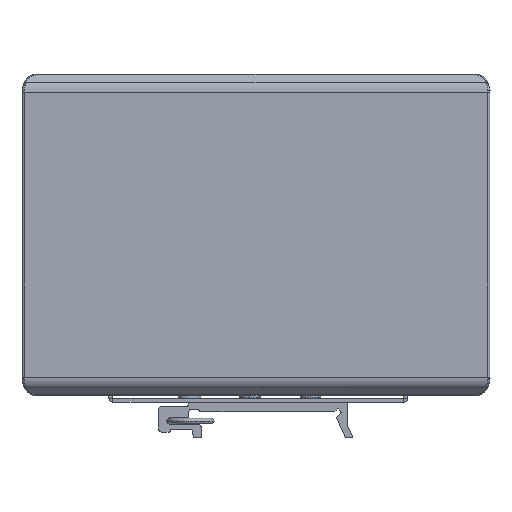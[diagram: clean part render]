
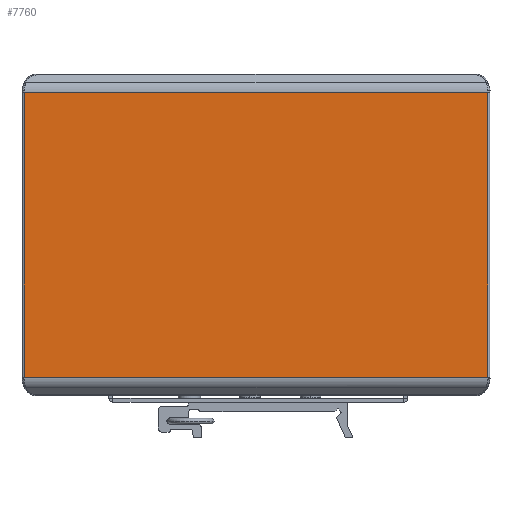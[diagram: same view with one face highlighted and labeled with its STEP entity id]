
A CAD part, front view. The second image highlights one B-rep face of the part: STEP entity #7760.
In plain terms, the highlighted planar face has unit normal (0, -1, 0) as drawn and (0, 1, 0) by its records, which use the part's own axes.
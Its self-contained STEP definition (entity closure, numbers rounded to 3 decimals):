
#5756=DIRECTION('',(1.,0.,0.));
#5757=VECTOR('',#5756,70.469);
#5758=CARTESIAN_POINT('',(-35.235,2.3,57.336));
#5759=LINE('',#5758,#5757);
#5809=DIRECTION('',(0.,0.,-1.));
#5810=VECTOR('',#5809,114.671);
#5811=CARTESIAN_POINT('',(35.235,2.3,57.336));
#5812=LINE('',#5811,#5810);
#5857=DIRECTION('',(-1.,0.,0.));
#5858=VECTOR('',#5857,70.469);
#5859=CARTESIAN_POINT('',(35.235,2.3,-57.336));
#5860=LINE('',#5859,#5858);
#5882=DIRECTION('',(0.,0.,1.));
#5883=VECTOR('',#5882,114.671);
#5884=CARTESIAN_POINT('',(-35.235,2.3,
-57.336));
#5885=LINE('',#5884,#5883);
#7368=CARTESIAN_POINT('',(-35.235,2.3,57.336));
#7369=CARTESIAN_POINT('',(35.235,2.3,57.336));
#7370=VERTEX_POINT('',#7368);
#7371=VERTEX_POINT('',#7369);
#7372=CARTESIAN_POINT('',(-35.235,2.3,
-57.336));
#7373=VERTEX_POINT('',#7372);
#7374=CARTESIAN_POINT('',(35.235,2.3,-57.336));
#7375=VERTEX_POINT('',#7374);
#7745=CARTESIAN_POINT('',(36.9,2.3,-58.));
#7746=DIRECTION('',(0.,1.,0.));
#7747=DIRECTION('',(-1.,0.,0.));
#7748=AXIS2_PLACEMENT_3D('',#7745,#7746,#7747);
#7749=PLANE('',#7748);
#7751=ORIENTED_EDGE('',*,*,#7750,.F.);
#7753=ORIENTED_EDGE('',*,*,#7752,.F.);
#7755=ORIENTED_EDGE('',*,*,#7754,.F.);
#7757=ORIENTED_EDGE('',*,*,#7756,.F.);
#7758=EDGE_LOOP('',(#7751,#7753,#7755,#7757));
#7759=FACE_OUTER_BOUND('',#7758,.F.);
#7750=EDGE_CURVE('',#7370,#7371,#5759,.T.);
#7752=EDGE_CURVE('',#7373,#7370,#5885,.T.);
#7754=EDGE_CURVE('',#7375,#7373,#5860,.T.);
#7756=EDGE_CURVE('',#7371,#7375,#5812,.T.);
#7760=ADVANCED_FACE('',(#7759),#7749,.T.);
